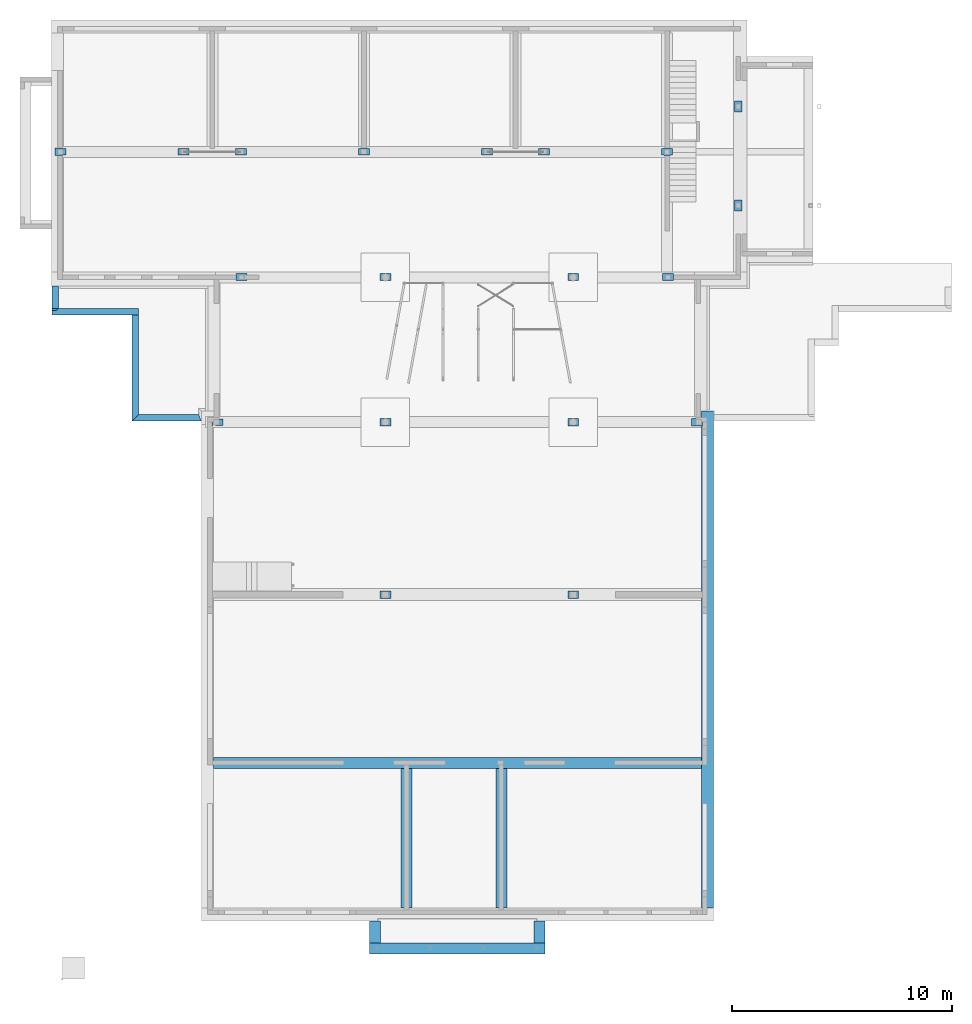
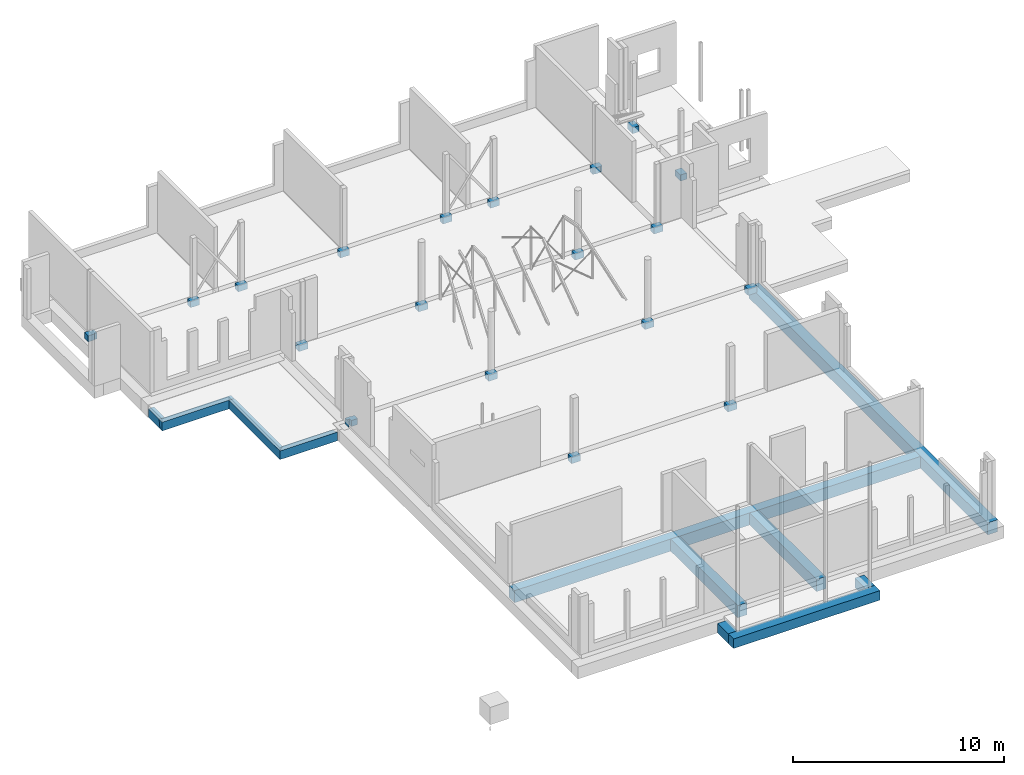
# One storey, part 9 of 17: 19 columns, 11 beams.
"""IFC2X3 building model written with IfcOpenShell, lengths in millimetres."""

from ifc_helpers import new_model, entity, si_unit, converted_unit, derived_unit, direction, frame, frame_2d, origin, place, context, subcontext, project, spatial, polyline, rectangle, outline, extrude, clip, halfspace, source, transform, mapped, material, type_object, type_shapes, element, save


model = new_model("IFC2X3")

# Units and contexts
model_context = context("Model", 3, precision=0.01, world=origin(), true_north=direction((6.123031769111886e-17, 1.0)))
body_context = subcontext(model_context, "Body", "Model", "MODEL_VIEW")
ifc_project = project(units=[si_unit("LENGTHUNIT", "METRE", prefix="MILLI"), si_unit("AREAUNIT", "SQUARE_METRE", prefix="MILLI"), si_unit("VOLUMEUNIT", "CUBIC_METRE"), converted_unit("PLANEANGLEUNIT", "DEGREE", entity("IfcPlaneAngleMeasure", 0.017453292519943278), si_unit("PLANEANGLEUNIT", "RADIAN"), dimensions=[0, 0, 0, 0, 0, 0, 0]), si_unit("MASSUNIT", "GRAM", prefix="KILO"), derived_unit("MASSDENSITYUNIT", [(si_unit("MASSUNIT", "GRAM", prefix="KILO"), 1), (si_unit("LENGTHUNIT", "METRE"), -3)]), derived_unit("IONCONCENTRATIONUNIT", [(si_unit("MASSUNIT", "GRAM", prefix="KILO"), 1), (si_unit("LENGTHUNIT", "METRE"), -3)]), derived_unit("MOMENTOFINERTIAUNIT", [(si_unit("LENGTHUNIT", "METRE"), 4)]), si_unit("TIMEUNIT", "SECOND"), si_unit("FREQUENCYUNIT", "HERTZ"), si_unit("THERMODYNAMICTEMPERATUREUNIT", "DEGREE_CELSIUS"), derived_unit("THERMALTRANSMITTANCEUNIT", [(si_unit("MASSUNIT", "GRAM", prefix="KILO"), 1), (si_unit("THERMODYNAMICTEMPERATUREUNIT", "KELVIN"), -1), (si_unit("TIMEUNIT", "SECOND"), -3)]), derived_unit("THERMALCONDUCTANCEUNIT", [(si_unit("MASSUNIT", "GRAM", prefix="KILO"), 1), (si_unit("THERMODYNAMICTEMPERATUREUNIT", "KELVIN"), -1), (si_unit("TIMEUNIT", "SECOND"), -3), (si_unit("LENGTHUNIT", "METRE"), 1)]), derived_unit("VOLUMETRICFLOWRATEUNIT", [(si_unit("LENGTHUNIT", "METRE", prefix="DECI"), 3), (si_unit("TIMEUNIT", "SECOND"), -1)]), derived_unit("MASSFLOWRATEUNIT", [(si_unit("MASSUNIT", "GRAM", prefix="KILO"), 1), (si_unit("TIMEUNIT", "SECOND"), -1)]), derived_unit("ROTATIONALFREQUENCYUNIT", [(si_unit("TIMEUNIT", "SECOND"), -1)]), si_unit("ELECTRICCURRENTUNIT", "AMPERE"), si_unit("ELECTRICVOLTAGEUNIT", "VOLT"), si_unit("POWERUNIT", "WATT"), si_unit("FORCEUNIT", "NEWTON", prefix="KILO"), si_unit("ILLUMINANCEUNIT", "LUX"), si_unit("LUMINOUSFLUXUNIT", "LUMEN"), si_unit("LUMINOUSINTENSITYUNIT", "CANDELA"), si_unit("ENERGYUNIT", "JOULE"), derived_unit("USERDEFINED", [(si_unit("MASSUNIT", "GRAM", prefix="KILO"), -1), (si_unit("LENGTHUNIT", "METRE"), -2), (si_unit("TIMEUNIT", "SECOND"), 3), (si_unit("LUMINOUSFLUXUNIT", "LUMEN"), 1)]), derived_unit("USERDEFINED", [(si_unit("MASSUNIT", "GRAM", prefix="KILO"), 1), (si_unit("TIMEUNIT", "SECOND"), -3), (si_unit("LENGTHUNIT", "METRE"), 3), (si_unit("ELECTRICCURRENTUNIT", "AMPERE"), -2)]), derived_unit("SOUNDPOWERUNIT", [(si_unit("MASSUNIT", "GRAM", prefix="KILO"), 1), (si_unit("TIMEUNIT", "SECOND"), -3), (si_unit("LENGTHUNIT", "METRE"), 2)]), derived_unit("SOUNDPRESSUREUNIT", [(si_unit("MASSUNIT", "GRAM", prefix="KILO"), 1), (si_unit("LENGTHUNIT", "METRE"), -1), (si_unit("TIMEUNIT", "SECOND"), -2)]), derived_unit("LINEARVELOCITYUNIT", [(si_unit("LENGTHUNIT", "METRE"), 1), (si_unit("TIMEUNIT", "SECOND"), -1)]), si_unit("PRESSUREUNIT", "PASCAL"), derived_unit("USERDEFINED", [(si_unit("MASSUNIT", "GRAM", prefix="KILO"), 1), (si_unit("LENGTHUNIT", "METRE"), -2), (si_unit("TIMEUNIT", "SECOND"), -2)]), derived_unit("LINEARFORCEUNIT", [(si_unit("MASSUNIT", "GRAM", prefix="KILO"), 1), (si_unit("TIMEUNIT", "SECOND"), -2)]), derived_unit("PLANARFORCEUNIT", [(si_unit("MASSUNIT", "GRAM", prefix="KILO"), 1), (si_unit("LENGTHUNIT", "METRE"), -1), (si_unit("TIMEUNIT", "SECOND"), -2)]), derived_unit("SPECIFICHEATCAPACITYUNIT", [(si_unit("THERMODYNAMICTEMPERATUREUNIT", "KELVIN"), -1), (si_unit("LENGTHUNIT", "METRE"), 2), (si_unit("TIMEUNIT", "SECOND"), -2)]), derived_unit("HEATFLUXDENSITYUNIT", [(si_unit("MASSUNIT", "GRAM", prefix="KILO"), 1), (si_unit("TIMEUNIT", "SECOND"), -3)]), derived_unit("HEATINGVALUEUNIT", [(si_unit("LENGTHUNIT", "METRE"), 2), (si_unit("TIMEUNIT", "SECOND"), -2)]), derived_unit("VAPORPERMEABILITYUNIT", [(si_unit("LENGTHUNIT", "METRE"), -1), (si_unit("TIMEUNIT", "SECOND"), 1)]), derived_unit("DYNAMICVISCOSITYUNIT", [(si_unit("MASSUNIT", "GRAM", prefix="KILO"), 1), (si_unit("TIMEUNIT", "SECOND"), -1), (si_unit("LENGTHUNIT", "METRE"), -1)]), derived_unit("THERMALEXPANSIONCOEFFICIENTUNIT", [(si_unit("THERMODYNAMICTEMPERATUREUNIT", "KELVIN"), -1)]), derived_unit("MODULUSOFELASTICITYUNIT", [(si_unit("MASSUNIT", "GRAM", prefix="KILO"), 1), (si_unit("LENGTHUNIT", "METRE"), -1), (si_unit("TIMEUNIT", "SECOND"), -2)]), derived_unit("ISOTHERMALMOISTURECAPACITYUNIT", [(si_unit("MASSUNIT", "GRAM", prefix="KILO"), -1), (si_unit("LENGTHUNIT", "METRE"), 3)]), derived_unit("MOISTUREDIFFUSIVITYUNIT", [(si_unit("TIMEUNIT", "SECOND"), -1), (si_unit("LENGTHUNIT", "METRE"), 2)]), derived_unit("MASSPERLENGTHUNIT", [(si_unit("MASSUNIT", "GRAM", prefix="KILO"), 1), (si_unit("LENGTHUNIT", "METRE"), -1)]), derived_unit("THERMALRESISTANCEUNIT", [(si_unit("MASSUNIT", "GRAM", prefix="KILO"), -1), (si_unit("TIMEUNIT", "SECOND"), 3), (si_unit("THERMODYNAMICTEMPERATUREUNIT", "KELVIN"), 1)]), derived_unit("ACCELERATIONUNIT", [(si_unit("LENGTHUNIT", "METRE"), 1), (si_unit("TIMEUNIT", "SECOND"), -2)]), derived_unit("ANGULARVELOCITYUNIT", [(si_unit("TIMEUNIT", "SECOND"), -1), (si_unit("PLANEANGLEUNIT", "RADIAN"), 1)]), derived_unit("LINEARSTIFFNESSUNIT", [(si_unit("MASSUNIT", "GRAM", prefix="KILO"), 1), (si_unit("TIMEUNIT", "SECOND"), -2)]), derived_unit("WARPINGCONSTANTUNIT", [(si_unit("LENGTHUNIT", "METRE"), 6)]), derived_unit("LINEARMOMENTUNIT", [(si_unit("MASSUNIT", "GRAM", prefix="KILO"), 1), (si_unit("LENGTHUNIT", "METRE"), 1), (si_unit("TIMEUNIT", "SECOND"), -2)]), derived_unit("TORQUEUNIT", [(si_unit("MASSUNIT", "GRAM", prefix="KILO"), 1), (si_unit("LENGTHUNIT", "METRE"), 2), (si_unit("TIMEUNIT", "SECOND"), -2)])], contexts=[model_context])

# Site, building, storey
site_placement = place(None, origin())
site = spatial("IfcSite", under=ifc_project, at=site_placement, Name="Default", CompositionType="ELEMENT")
building_placement = place(site_placement, origin())
building = spatial("IfcBuilding", under=site, at=building_placement, CompositionType="ELEMENT")
storey_placement = place(building_placement, frame((0.0, 0.0, -70.0)))
storey = spatial("IfcBuildingStorey", under=building, at=storey_placement, Name="F1 begg (bk ruwe vloer)", CompositionType="ELEMENT", Elevation=-69.99999999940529)

# Columns
ifc_material_1 = material(Name="Concrete - Cast-in-Place - C20/25")
column_type_1 = type_object("IfcColumnType", Name="btk_beton - 4-hoek:500x350 ihwg", PredefinedType="COLUMN", material=ifc_material_1)
shared_shape_1 = source(origin(), body_context, "Body", "SweptSolid", [
    extrude(rectangle(XDim=300.0000000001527, YDim=500.00000000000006, at=frame_2d((2.1742607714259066e-12, -5.400124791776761e-13), x_axis=(1.0, 0.0))), frame((5525.000781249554, 37644.57320506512, -480.0), z_axis=(0.0, 0.0, 1.0), x_axis=(0.0, -1.0, 0.0)), (0.0, 0.0, 1.0), 349.9999999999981),
])
type_shapes(column_type_1, [shared_shape_1])
column_1_placement = place(storey_placement, frame((0.0, 0.0, 70.0)))
element("IfcColumn", 1, at=column_1_placement, inside=storey, type_object=column_type_1, material=ifc_material_1, Name="btk_beton - 4-hoek:500x350 ihwg", ObjectType="btk_beton - 4-hoek:500x350 ihwg", context=body_context, shape_type="MappedRepresentation", body=[
    mapped(shared_shape_1, transform((0.0, 0.0, 0.0), scale=1.0)),
])
column_type_2 = type_object("IfcColumnType", Name="btk_beton - 4-hoek:500x350 ihwg", PredefinedType="COLUMN", material=ifc_material_1)
shared_shape_2 = source(origin(), body_context, "Body", "SweptSolid", [
    extrude(rectangle(XDim=300.0000000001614, YDim=500.00000000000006, at=frame_2d((2.1600499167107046e-12, -5.400124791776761e-13), x_axis=(1.0, 0.0))), frame((8124.985770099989, 37644.57320506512, -480.0), z_axis=(0.0, 0.0, 1.0), x_axis=(0.0, 1.0, 0.0)), (0.0, 0.0, 1.0), 349.9999999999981),
])
type_shapes(column_type_2, [shared_shape_2])
column_2_placement = place(storey_placement, frame((0.0, 0.0, 70.0)))
element("IfcColumn", 2, at=column_2_placement, inside=storey, type_object=column_type_2, material=ifc_material_1, Name="btk_beton - 4-hoek:500x350 ihwg", ObjectType="btk_beton - 4-hoek:500x350 ihwg", context=body_context, shape_type="MappedRepresentation", body=[
    mapped(shared_shape_2, transform((0.0, 0.0, 0.0), scale=1.0)),
])
column_type_3 = type_object("IfcColumnType", Name="btk_beton - 4-hoek:500x350 ihwg", PredefinedType="COLUMN", material=ifc_material_1)
shared_shape_3 = source(origin(), body_context, "Body", "SweptSolid", [
    extrude(outline(polyline([(-231.25000000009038, -250.0), (68.75000000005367, -250.0), (68.75000000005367, -150.0), (93.74999999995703, -150.0), (93.74999999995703, 150.0), (68.75000000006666, 150.0), (68.750000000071, 250.0), (-231.25000000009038, 250.0), (-231.25000000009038, -250.0)])), frame((13725.00078124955, 37725.823205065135, -480.0), z_axis=(0.0, 0.0, 1.0), x_axis=(0.0, 1.0, 0.0)), (0.0, 0.0, 1.0), 349.9999999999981),
])
type_shapes(column_type_3, [shared_shape_3])
column_3_placement = place(storey_placement, frame((0.0, 0.0, 70.0)))
element("IfcColumn", 3, at=column_3_placement, inside=storey, type_object=column_type_3, material=ifc_material_1, Name="btk_beton - 4-hoek:500x350 ihwg", ObjectType="btk_beton - 4-hoek:500x350 ihwg", context=body_context, shape_type="MappedRepresentation", body=[
    mapped(shared_shape_3, transform((0.0, 0.0, 0.0), scale=1.0)),
])
column_type_4 = type_object("IfcColumnType", Name="btk_beton - 4-hoek:500x350 ihwg", PredefinedType="COLUMN", material=ifc_material_1)
shared_shape_4 = source(origin(), body_context, "Body", "SweptSolid", [
    extrude(rectangle(XDim=300.00000000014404, YDim=500.00000000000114, at=frame_2d((2.1600499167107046e-12, 1.0800249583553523e-12), x_axis=(1.0, 0.0))), frame((19324.98465402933, 37644.57320506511, -480.0), z_axis=(0.0, 0.0, 1.0), x_axis=(0.0, 1.0, 0.0)), (0.0, 0.0, 1.0), 349.9999999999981),
])
type_shapes(column_type_4, [shared_shape_4])
column_4_placement = place(storey_placement, frame((0.0, 0.0, 70.0)))
element("IfcColumn", 4, at=column_4_placement, inside=storey, type_object=column_type_4, material=ifc_material_1, Name="btk_beton - 4-hoek:500x350 ihwg", ObjectType="btk_beton - 4-hoek:500x350 ihwg", context=body_context, shape_type="MappedRepresentation", body=[
    mapped(shared_shape_4, transform((0.0, 0.0, 0.0), scale=1.0)),
])
column_type_5 = type_object("IfcColumnType", Name="btk_beton - 4-hoek:500x350 ihwg", PredefinedType="COLUMN", material=ifc_material_1)
shared_shape_5 = source(origin(), body_context, "Body", "SweptSolid", [
    extrude(rectangle(XDim=300.0000000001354, YDim=499.999999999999, at=frame_2d((-2.1742607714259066e-12, 0.0), x_axis=(1.0, 0.0))), frame((21924.984654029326, 37644.57320506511, -480.0), z_axis=(0.0, 0.0, 1.0), x_axis=(0.0, 1.0, 0.0)), (0.0, 0.0, 1.0), 349.9999999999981),
])
type_shapes(column_type_5, [shared_shape_5])
column_5_placement = place(storey_placement, frame((0.0, 0.0, 70.0)))
element("IfcColumn", 5, at=column_5_placement, inside=storey, type_object=column_type_5, material=ifc_material_1, Name="btk_beton - 4-hoek:500x350 ihwg", ObjectType="btk_beton - 4-hoek:500x350 ihwg", context=body_context, shape_type="MappedRepresentation", body=[
    mapped(shared_shape_5, transform((0.0, 0.0, 0.0), scale=1.0)),
])
column_type_6 = type_object("IfcColumnType", Name="btk_beton - 4-hoek:500x350 ihwg", PredefinedType="COLUMN", material=ifc_material_1)
shared_shape_6 = source(origin(), body_context, "Body", "SweptSolid", [
    extrude(outline(polyline([(150.0, -150.00085565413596), (175.0, -150.00085565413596), (175.0, 149.99914434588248), (150.0, 149.99914434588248), (150.0, 249.99914434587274), (-150.0, 249.99914434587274), (-150.0, 149.9991443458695), (-175.0, 149.9991443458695), (-175.0, -149.9957217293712), (-150.0, -149.9957217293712), (-150.0, -250.0008556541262), (150.0, -250.0008556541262), (150.0, -150.00085565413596)])), frame((27524.9803757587, 37644.573205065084, -480.0), z_axis=(0.0, 0.0, 1.0), x_axis=(0.0, -1.0, 0.0)), (0.0, 0.0, 1.0), 349.9999999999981),
])
type_shapes(column_type_6, [shared_shape_6])
column_6_placement = place(storey_placement, frame((0.0, 0.0, 70.0)))
element("IfcColumn", 6, at=column_6_placement, inside=storey, type_object=column_type_6, material=ifc_material_1, Name="btk_beton - 4-hoek:500x350 ihwg", ObjectType="btk_beton - 4-hoek:500x350 ihwg", context=body_context, shape_type="MappedRepresentation", body=[
    mapped(shared_shape_6, transform((0.0, 0.0, 0.0), scale=1.0)),
])
column_type_7 = type_object("IfcColumnType", Name="btk_beton - 4-hoek:500x350 ihwg", PredefinedType="COLUMN", material=ifc_material_1)
shared_shape_7 = source(origin(), body_context, "Body", "SweptSolid", [
    extrude(rectangle(XDim=324.9999999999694, YDim=499.999999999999, at=frame_2d((74.9999999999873, 9.476583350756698), x_axis=(1.0, 0.0))), frame((27553.40927015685, 32025.073165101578, -480.0), z_axis=(0.0, 0.0, 1.0), x_axis=(0.0, -1.0, 0.0)), (0.0, 0.0, 1.0), 349.9999999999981),
])
type_shapes(column_type_7, [shared_shape_7])
column_7_placement = place(storey_placement, frame((0.0, 0.0, 70.0)))
element("IfcColumn", 7, at=column_7_placement, inside=storey, type_object=column_type_7, material=ifc_material_1, Name="btk_beton - 4-hoek:500x350 ihwg", ObjectType="btk_beton - 4-hoek:500x350 ihwg", context=body_context, shape_type="MappedRepresentation", body=[
    mapped(shared_shape_7, transform((0.0, 0.0, 0.0), scale=1.0)),
])
column_type_8 = type_object("IfcColumnType", Name="btk_beton - 4-hoek:500x350 ihwg", PredefinedType="COLUMN", material=ifc_material_1)
shared_shape_8 = source(origin(), body_context, "Body", "SweptSolid", [
    extrude(rectangle(XDim=324.99999999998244, YDim=499.999999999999, at=frame_2d((45.83333333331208, 4.334310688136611e-12), x_axis=(1.0, 0.0))), frame((23249.98660715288, 31995.90649843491, -480.0), z_axis=(0.0, 0.0, 1.0), x_axis=(0.0, -1.0, 0.0)), (0.0, 0.0, 1.0), 349.9999999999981),
])
type_shapes(column_type_8, [shared_shape_8])
column_8_placement = place(storey_placement, frame((0.0, 0.0, 70.0)))
element("IfcColumn", 8, at=column_8_placement, inside=storey, type_object=column_type_8, material=ifc_material_1, Name="btk_beton - 4-hoek:500x350 ihwg", ObjectType="btk_beton - 4-hoek:500x350 ihwg", context=body_context, shape_type="MappedRepresentation", body=[
    mapped(shared_shape_8, transform((0.0, 0.0, 0.0), scale=1.0)),
])
column_type_9 = type_object("IfcColumnType", Name="btk_beton - 4-hoek:500x350 ihwg", PredefinedType="COLUMN", material=ifc_material_1)
shared_shape_9 = source(origin(), body_context, "Body", "SweptSolid", [
    extrude(rectangle(XDim=325.0000000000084, YDim=499.999999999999, at=frame_2d((45.83333333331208, 2.1742607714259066e-12), x_axis=(1.0, 0.0))), frame((14699.863108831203, 31995.90649843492, -480.0), z_axis=(0.0, 0.0, 1.0), x_axis=(0.0, -1.0, 0.0)), (0.0, 0.0, 1.0), 349.9999999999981),
])
type_shapes(column_type_9, [shared_shape_9])
column_9_placement = place(storey_placement, frame((0.0, 0.0, 70.0)))
element("IfcColumn", 9, at=column_9_placement, inside=storey, type_object=column_type_9, material=ifc_material_1, Name="btk_beton - 4-hoek:500x350 ihwg", ObjectType="btk_beton - 4-hoek:500x350 ihwg", context=body_context, shape_type="MappedRepresentation", body=[
    mapped(shared_shape_9, transform((0.0, 0.0, 0.0), scale=1.0)),
])
column_type_10 = type_object("IfcColumnType", Name="btk_beton - 4-hoek:500x350 ihwg", PredefinedType="COLUMN", material=ifc_material_1)
shared_shape_10 = source(origin(), body_context, "Body", "SweptSolid", [
    extrude(rectangle(XDim=325.00000000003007, YDim=500.00000000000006, at=frame_2d((45.83333333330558, -5.400124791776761e-13), x_axis=(1.0, 0.0))), frame((8150.556323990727, 31995.906498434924, -480.0), z_axis=(0.0, 0.0, 1.0), x_axis=(0.0, -1.0, 0.0)), (0.0, 0.0, 1.0), 349.9999999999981),
])
type_shapes(column_type_10, [shared_shape_10])
column_10_placement = place(storey_placement, frame((0.0, 0.0, 70.0)))
element("IfcColumn", 10, at=column_10_placement, inside=storey, type_object=column_type_10, material=ifc_material_1, Name="btk_beton - 4-hoek:500x350 ihwg", ObjectType="btk_beton - 4-hoek:500x350 ihwg", context=body_context, shape_type="MappedRepresentation", body=[
    mapped(shared_shape_10, transform((0.0, 0.0, 0.0), scale=1.0)),
])
column_type_11 = type_object("IfcColumnType", Name="btk_beton - 4-hoek:500x350 ihwg", PredefinedType="COLUMN", material=ifc_material_1)
shared_shape_11 = source(origin(), body_context, "Body", "SweptSolid", [
    extrude(outline(polyline([(-294.5001936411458, -175.0), (44.50019364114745, -175.0), (44.50019364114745, -150.0), (205.49980635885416, -150.0), (205.49980635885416, 150.0), (44.50019364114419, 150.0), (44.50019364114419, 175.0), (-294.5001936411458, 175.0), (-294.5001936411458, -175.0)])), frame((-44.4998063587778, 37644.57320506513, -480.0)), (0.0, 0.0, 1.0), 349.9999999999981),
])
type_shapes(column_type_11, [shared_shape_11])
column_11_placement = place(storey_placement, frame((0.0, 0.0, 70.0)))
element("IfcColumn", 11, at=column_11_placement, inside=storey, type_object=column_type_11, material=ifc_material_1, Name="btk_beton - 4-hoek:500x350 ihwg", ObjectType="btk_beton - 4-hoek:500x350 ihwg", context=body_context, shape_type="MappedRepresentation", body=[
    mapped(shared_shape_11, transform((0.0, 0.0, 0.0), scale=1.0)),
])
column_type_12 = type_object("IfcColumnType", Name="btk_beton - 4-hoek:500x350 ihwg", PredefinedType="COLUMN", material=ifc_material_1)
shared_shape_12 = source(origin(), body_context, "Body", "SweptSolid", [
    extrude(outline(polyline([(-195.5936851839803, -174.99451218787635), (-181.6252592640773, -174.99451218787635), (-181.62525926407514, -0.021951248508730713), (-45.593685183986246, -0.021951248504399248), (-45.593685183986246, -149.9945121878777), (304.40631481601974, -149.99451218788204), (304.40631481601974, 150.0054878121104), (118.40631481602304, 150.0054878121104), (118.40631481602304, 175.00548781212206), (-195.5936851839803, 175.00548781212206), (-195.5936851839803, -174.99451218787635)])), frame((7006.6180445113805, 25344.599525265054, -480.0)), (0.0, 0.0, 1.0), 349.9999999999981),
])
type_shapes(column_type_12, [shared_shape_12])
column_12_placement = place(storey_placement, frame((0.0, 0.0, 70.0)))
element("IfcColumn", 12, at=column_12_placement, inside=storey, type_object=column_type_12, material=ifc_material_1, Name="btk_beton - 4-hoek:500x350 ihwg", ObjectType="btk_beton - 4-hoek:500x350 ihwg", context=body_context, shape_type="MappedRepresentation", body=[
    mapped(shared_shape_12, transform((0.0, 0.0, 0.0), scale=1.0)),
])
column_type_13 = type_object("IfcColumnType", Name="btk_beton - 4-hoek:500x350 ihwg", PredefinedType="COLUMN", material=ifc_material_1)
shared_shape_13 = source(origin(), body_context, "Body", "SweptSolid", [
    extrude(rectangle(XDim=349.9999999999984, YDim=499.999999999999, at=frame_2d((1.7323031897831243e-11, 0.0), x_axis=(1.0, 0.0))), frame((14699.863108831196, 25344.60501307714, -480.0), z_axis=(0.0, 0.0, 1.0), x_axis=(0.0, 1.0, 0.0)), (0.0, 0.0, 1.0), 349.9999999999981),
])
type_shapes(column_type_13, [shared_shape_13])
column_13_placement = place(storey_placement, frame((0.0, 0.0, 70.0)))
element("IfcColumn", 13, at=column_13_placement, inside=storey, type_object=column_type_13, material=ifc_material_1, Name="btk_beton - 4-hoek:500x350 ihwg", ObjectType="btk_beton - 4-hoek:500x350 ihwg", context=body_context, shape_type="MappedRepresentation", body=[
    mapped(shared_shape_13, transform((0.0, 0.0, 0.0), scale=1.0)),
])
column_type_14 = type_object("IfcColumnType", Name="btk_beton - 4-hoek:500x350 ihwg", PredefinedType="COLUMN", material=ifc_material_1)
shared_shape_14 = source(origin(), body_context, "Body", "SweptSolid", [
    extrude(rectangle(XDim=499.999999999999, YDim=350.00000000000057, at=frame_2d((0.0, -1.0800249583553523e-12), x_axis=(1.0, 0.0))), frame((14699.863108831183, 17494.60501307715, -480.0), z_axis=(0.0, 0.0, 1.0), x_axis=(-1.0, 0.0, 0.0)), (0.0, 0.0, 1.0), 349.9999999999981),
])
type_shapes(column_type_14, [shared_shape_14])
column_14_placement = place(storey_placement, frame((0.0, 0.0, 70.0)))
element("IfcColumn", 14, at=column_14_placement, inside=storey, type_object=column_type_14, material=ifc_material_1, Name="btk_beton - 4-hoek:500x350 ihwg", ObjectType="btk_beton - 4-hoek:500x350 ihwg", context=body_context, shape_type="MappedRepresentation", body=[
    mapped(shared_shape_14, transform((0.0, 0.0, 0.0), scale=1.0)),
])
column_type_15 = type_object("IfcColumnType", Name="btk_beton - 4-hoek:500x350 ihwg", PredefinedType="COLUMN", material=ifc_material_1)
shared_shape_15 = source(origin(), body_context, "Body", "SweptSolid", [
    extrude(rectangle(XDim=499.999999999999, YDim=350.00000000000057, at=frame_2d((0.0, 1.0800249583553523e-12), x_axis=(1.0, 0.0))), frame((23249.986607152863, 17494.605013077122, -480.0), z_axis=(0.0, 0.0, 1.0), x_axis=(-1.0, 0.0, 0.0)), (0.0, 0.0, 1.0), 349.9999999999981),
])
type_shapes(column_type_15, [shared_shape_15])
column_15_placement = place(storey_placement, frame((0.0, 0.0, 70.0)))
element("IfcColumn", 15, at=column_15_placement, inside=storey, type_object=column_type_15, material=ifc_material_1, Name="btk_beton - 4-hoek:500x350 ihwg", ObjectType="btk_beton - 4-hoek:500x350 ihwg", context=body_context, shape_type="MappedRepresentation", body=[
    mapped(shared_shape_15, transform((0.0, 0.0, 0.0), scale=1.0)),
])
column_type_16 = type_object("IfcColumnType", Name="btk_beton - 4-hoek:500x350 ihwg", PredefinedType="COLUMN", material=ifc_material_1)
shared_shape_16 = source(origin(), body_context, "Body", "SweptSolid", [
    extrude(rectangle(XDim=350.00000000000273, YDim=499.999999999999, at=frame_2d((-35.668095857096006, -4.334310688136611e-12), x_axis=(1.0, 0.0))), frame((30721.30909910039, 35197.84751726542, -480.0), z_axis=(0.0, 0.0, 1.0), x_axis=(-1.0, 0.0, 0.0)), (0.0, 0.0, 1.0), 349.9999999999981),
])
type_shapes(column_type_16, [shared_shape_16])
column_16_placement = place(storey_placement, frame((0.0, 0.0, 70.0)))
element("IfcColumn", 16, at=column_16_placement, inside=storey, type_object=column_type_16, material=ifc_material_1, Name="btk_beton - 4-hoek:500x350 ihwg", ObjectType="btk_beton - 4-hoek:500x350 ihwg", context=body_context, shape_type="MappedRepresentation", body=[
    mapped(shared_shape_16, transform((0.0, 0.0, 0.0), scale=1.0)),
])
column_type_17 = type_object("IfcColumnType", Name="btk_beton - 4-hoek:500x350 ihwg", PredefinedType="COLUMN", material=ifc_material_1)
shared_shape_17 = source(origin(), body_context, "Body", "SweptSolid", [
    extrude(rectangle(XDim=350.00000000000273, YDim=499.999999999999, at=frame_2d((-35.93803669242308, -4.334310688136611e-12), x_axis=(1.0, 0.0))), frame((30721.03915826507, 39708.506962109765, -480.0), z_axis=(0.0, 0.0, 1.0), x_axis=(-1.0, 0.0, 0.0)), (0.0, 0.0, 1.0), 349.9999999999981),
])
type_shapes(column_type_17, [shared_shape_17])
column_17_placement = place(storey_placement, frame((0.0, 0.0, 70.0)))
element("IfcColumn", 17, at=column_17_placement, inside=storey, type_object=column_type_17, material=ifc_material_1, Name="btk_beton - 4-hoek:500x350 ihwg", ObjectType="btk_beton - 4-hoek:500x350 ihwg", context=body_context, shape_type="MappedRepresentation", body=[
    mapped(shared_shape_17, transform((0.0, 0.0, 0.0), scale=1.0)),
])
column_type_18 = type_object("IfcColumnType", Name="btk_beton - 4-hoek:500x350 ihwg", PredefinedType="COLUMN", material=ifc_material_1)
shared_shape_18 = source(origin(), body_context, "Body", "SweptSolid", [
    extrude(rectangle(XDim=349.9999999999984, YDim=499.999999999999, at=frame_2d((3.0325963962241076e-11, 4.334310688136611e-12), x_axis=(1.0, 0.0))), frame((23249.98660715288, 25344.6050130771, -480.0), z_axis=(0.0, 0.0, 1.0), x_axis=(0.0, 1.0, 0.0)), (0.0, 0.0, 1.0), 349.9999999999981),
])
type_shapes(column_type_18, [shared_shape_18])
column_18_placement = place(storey_placement, frame((0.0, 0.0, 70.0)))
element("IfcColumn", 18, at=column_18_placement, inside=storey, type_object=column_type_18, material=ifc_material_1, Name="btk_beton - 4-hoek:500x350 ihwg", ObjectType="btk_beton - 4-hoek:500x350 ihwg", context=body_context, shape_type="MappedRepresentation", body=[
    mapped(shared_shape_18, transform((0.0, 0.0, 0.0), scale=1.0)),
])
column_type_19 = type_object("IfcColumnType", Name="btk_beton - 4-hoek:500x350 ihwg", PredefinedType="COLUMN", material=ifc_material_1)
shared_shape_19 = source(origin(), body_context, "Body", "SweptSolid", [
    extrude(rectangle(XDim=499.999999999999, YDim=349.9999999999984, at=frame_2d((-40.99885370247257, -2.1657342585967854e-11), x_axis=(1.0, 0.0))), frame((28847.980675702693, 25344.605013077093, -480.0), z_axis=(0.0, 0.0, 1.0), x_axis=(-1.0, 0.0, 0.0)), (0.0, 0.0, 1.0), 349.9999999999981),
])
type_shapes(column_type_19, [shared_shape_19])
column_19_placement = place(storey_placement, frame((0.0, 0.0, 70.0)))
element("IfcColumn", 19, at=column_19_placement, inside=storey, type_object=column_type_19, material=ifc_material_1, Name="btk_beton - 4-hoek:500x350 ihwg", ObjectType="btk_beton - 4-hoek:500x350 ihwg", context=body_context, shape_type="MappedRepresentation", body=[
    mapped(shared_shape_19, transform((0.0, 0.0, 0.0), scale=1.0)),
])

# Beams
ifc_material_2 = material(Name="Concrete - Cast-in-Place - C30/37")
beam_type_1 = type_object("IfcBeamType", Name="btl_ihwg - RBeam:550x700", PredefinedType="NOTDEFINED")
beam_1_placement = place(storey_placement, frame((29624.985770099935, 2644.605013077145, -410.0), z_axis=(0.0, 0.0, 1.0), x_axis=(0.0, 1.0, 0.0)))
element("IfcBeam", 20, at=beam_1_placement, inside=storey, type_object=beam_type_1, material=ifc_material_2, Name="btl_ihwg - RBeam:550x700", ObjectType="btl_ihwg - RBeam:550x700", context=body_context, shape_type="SweptSolid", body=[
    extrude(rectangle(XDim=699.9999999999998, YDim=550.0000000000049, at=frame_2d((-2.842170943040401e-14, -4.320099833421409e-12), x_axis=(1.0, 0.0))), frame((600.0, 275.0, -350.0), z_axis=(1.0, 0.0, 0.0), x_axis=(0.0, 0.0, -1.0)), (0.0, 0.0, 1.0), 22600.0),
])
ifc_material_3 = material(Name="Beton, ihwg C30/37")
beam_type_2 = type_object("IfcBeamType", Name="btl_ihwg - RBeam:500x700", PredefinedType="BEAM", material=ifc_material_3)
beam_2_placement = place(storey_placement, frame((6784.985770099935, 9844.605013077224, -410.0)))
element("IfcBeam", 21, at=beam_2_placement, inside=storey, type_object=beam_type_2, material=ifc_material_3, Name="btl_ihwg - RBeam:500x700", ObjectType="btl_ihwg - RBeam:500x700", context=body_context, shape_type="SweptSolid", body=[
    extrude(rectangle(XDim=700.0, YDim=500.0000000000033, at=frame_2d((2.842170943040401e-14, 7.146638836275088e-11), x_axis=(1.0, 0.0))), frame((90.01562712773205, 0.0, -350.0), z_axis=(1.0, 0.0, 0.0), x_axis=(0.0, 0.0, -1.0)), (0.0, 0.0, 1.0), 22199.984372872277),
])
beam_3_placement = place(storey_placement, frame((15664.841685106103, 9844.605013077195, -410.0), z_axis=(0.0, 0.0, 1.0), x_axis=(0.0, -1.0, 0.0)))
element("IfcBeam", 22, at=beam_3_placement, inside=storey, type_object=beam_type_2, material=ifc_material_3, Name="btl_ihwg - RBeam:500x700", ObjectType="btl_ihwg - RBeam:500x700", context=body_context, shape_type="SweptSolid", body=[
    extrude(rectangle(XDim=700.0000000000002, YDim=500.0000000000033, at=frame_2d((2.842170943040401e-14, 0.0), x_axis=(1.0, 0.0))), frame((250.0, 0.0, -350.0), z_axis=(1.0, 0.0, 0.0), x_axis=(0.0, 0.0, -1.0)), (0.0, 0.0, 1.0), 6350.000000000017),
])
beam_4_placement = place(storey_placement, frame((19978.355754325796, 9844.60501307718, -410.0), z_axis=(0.0, 0.0, 1.0), x_axis=(0.0, -1.0, 0.0)))
element("IfcBeam", 23, at=beam_4_placement, inside=storey, type_object=beam_type_2, material=ifc_material_3, Name="btl_ihwg - RBeam:500x700", ObjectType="btl_ihwg - RBeam:500x700", context=body_context, shape_type="SweptSolid", body=[
    extrude(rectangle(XDim=700.0000000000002, YDim=500.0000000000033, at=frame_2d((2.842170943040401e-14, -2.1600499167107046e-12), x_axis=(1.0, 0.0))), frame((250.0, 0.0, -350.0), z_axis=(1.0, 0.0, 0.0), x_axis=(0.0, 0.0, -1.0)), (0.0, 0.0, 1.0), 6350.00000000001),
])
beam_type_3 = type_object("IfcBeamType", Name="btl_ihwg - RBeam:500x550", PredefinedType="NOTDEFINED")
beam_5_placement = place(storey_placement, frame((14224.863108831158, 2644.6050130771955, -560.0), z_axis=(0.0, 0.0, 1.0), x_axis=(0.0, -1.0, 0.0)))
element("IfcBeam", 24, at=beam_5_placement, inside=storey, type_object=beam_type_3, material=ifc_material_3, Name="btl_ihwg - RBeam:500x550", ObjectType="btl_ihwg - RBeam:500x550", context=body_context, shape_type="SweptSolid", body=[
    extrude(rectangle(XDim=549.9999999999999, YDim=500.0000000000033, at=frame_2d((5.684341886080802e-14, 0.0), x_axis=(1.0, 0.0))), frame((0.0, 0.0, -275.0), z_axis=(1.0, 0.0, 0.0), x_axis=(0.0, 0.0, -1.0)), (0.0, 0.0, 1.0), 1000.0000000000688),
])
beam_6_placement = place(storey_placement, frame((13974.994921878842, 1394.605013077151, -560.0)))
element("IfcBeam", 25, at=beam_6_placement, inside=storey, type_object=beam_type_3, material=ifc_material_3, Name="btl_ihwg - RBeam:500x550", ObjectType="btl_ihwg - RBeam:500x550", context=body_context, shape_type="SweptSolid", body=[
    extrude(rectangle(XDim=550.0, YDim=500.0000000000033, at=frame_2d((5.684341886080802e-14, 2.5991653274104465e-11), x_axis=(1.0, 0.0))), frame((0.0, 0.0, -275.0), z_axis=(1.0, 0.0, 0.0), x_axis=(0.0, 0.0, -1.0)), (0.0, 0.0, 1.0), 7994.868186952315),
])
beam_7_placement = place(storey_placement, frame((21719.86310883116, 2644.605013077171, -560.0), z_axis=(0.0, 0.0, 1.0), x_axis=(0.0, -1.0, 0.0)))
element("IfcBeam", 26, at=beam_7_placement, inside=storey, type_object=beam_type_3, material=ifc_material_3, Name="btl_ihwg - RBeam:500x550", ObjectType="btl_ihwg - RBeam:500x550", context=body_context, shape_type="SweptSolid", body=[
    extrude(rectangle(XDim=550.0, YDim=500.0000000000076, at=frame_2d((-1.9895196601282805e-13, -6.494360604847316e-12), x_axis=(1.0, 0.0))), frame((0.0, 0.0, -275.0), z_axis=(1.0, 0.0, 0.0), x_axis=(0.0, 0.0, -1.0)), (0.0, 0.0, 1.0), 1000.0000000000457),
])
beam_type_4 = type_object("IfcBeamType", Name="btl_ihwg - RB 1x afschuining:b300/o200 x 500", PredefinedType="NOTDEFINED")
beam_8_placement = place(storey_placement, frame((-324.9974888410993, 30377.573165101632, -610.0)))
element("IfcBeam", 27, at=beam_8_placement, inside=storey, type_object=beam_type_4, material=ifc_material_1, Name="btl_ihwg - RB 1x afschuining:b300/o200 x 500", ObjectType="btl_ihwg - RB 1x afschuining:b300/o200 x 500", context=body_context, shape_type="SweptSolid", body=[
    clip(extrude(outline(polyline([(-250.0, -125.0), (250.0, -125.0), (250.0, 75.0), (-250.0, 175.0), (-250.0, -125.0)])), frame((-150.0, -25.0, -250.0), z_axis=(1.0, 0.0, 0.0), x_axis=(0.0, 0.0, -1.0)), (0.0, 0.0, 1.0), 3950.0000000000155), halfspace(frame((3700.0, 173.92908353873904, -500.0), z_axis=(0.9805806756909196, 0.0, -0.19611613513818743), x_axis=(0.0, -1.0, 0.0)), False)),
])
beam_9_placement = place(storey_placement, frame((-324.9974888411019, 31537.573165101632, -610.0), z_axis=(0.0, 0.0, 1.0), x_axis=(0.0, -1.0, 0.0)))
element("IfcBeam", 28, at=beam_9_placement, inside=storey, type_object=beam_type_4, material=ifc_material_1, Name="btl_ihwg - RB 1x afschuining:b300/o200 x 500", ObjectType="btl_ihwg - RB 1x afschuining:b300/o200 x 500", context=body_context, shape_type="SweptSolid", body=[
    clip(extrude(outline(polyline([(-250.0, -125.0), (250.0, -125.0), (250.0, 75.0), (-250.0, 175.0), (-250.0, -125.0)])), frame((0.0, -25.0, -250.0), z_axis=(1.0, 0.0, 0.0), x_axis=(0.0, 0.0, -1.0)), (0.0, 0.0, 1.0), 1110.0000000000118), halfspace(frame((1010.0, 3487.300000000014, 0.0), z_axis=(0.9805806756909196, 0.0, 0.1961161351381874), x_axis=(0.0, -1.0, 0.0)), False)),
])
beam_10_placement = place(storey_placement, frame((3325.0025111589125, 30377.573165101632, -610.0), z_axis=(0.0, 0.0, 1.0), x_axis=(0.0, -1.0, 0.0)))
element("IfcBeam", 29, at=beam_10_placement, inside=storey, type_object=beam_type_4, material=ifc_material_1, Name="btl_ihwg - RB 1x afschuining:b300/o200 x 500", ObjectType="btl_ihwg - RB 1x afschuining:b300/o200 x 500", context=body_context, shape_type="SweptSolid", body=[
    clip(extrude(outline(polyline([(-250.0, -125.0), (250.0, -125.0), (250.0, 75.0), (-250.0, 175.0), (-250.0, -125.0)])), frame((150.0, -25.0, -250.0), z_axis=(1.0, 0.0, 0.0), x_axis=(0.0, 0.0, -1.0)), (0.0, 0.0, 1.0), 4840.000000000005), halfspace(frame((4690.0, 151.69894658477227, -0.5159893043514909), z_axis=(0.709100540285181, 0.7051033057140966, -0.0023983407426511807), x_axis=(-0.7050992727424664, 0.709104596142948, 0.002384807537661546)), False)),
])
beam_11_placement = place(storey_placement, frame((3325.0025111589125, 25537.57316510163, -610.0), z_axis=(0.0034013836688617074, 0.0, 0.9999942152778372), x_axis=(0.9999942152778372, 0.0, -0.0034013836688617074)))
element("IfcBeam", 30, at=beam_11_placement, inside=storey, type_object=beam_type_4, material=ifc_material_1, Name="btl_ihwg - RB 1x afschuining:b300/o200 x 500", ObjectType="btl_ihwg - RB 1x afschuining:b300/o200 x 500", context=body_context, shape_type="SweptSolid", body=[
    clip(clip(extrude(outline(polyline([(-250.0, -125.0), (250.0, -125.0), (250.0, 75.0), (-250.0, 175.0), (-250.0, -125.0)])), frame((-149.9991322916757, -25.0, -250.0), z_axis=(1.0, 0.0, 0.0), x_axis=(0.0, 0.0, -1.0)), (0.0, 0.0, 1.0), 3151.6940120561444), halfspace(frame((151.69982412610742, 150.0, 0.0), z_axis=(-0.7051073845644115, 0.709100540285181, 0.0), x_axis=(0.7090923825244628, 0.7050992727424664, 0.004796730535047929)), False)), halfspace(frame((2879.966467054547, 149.88871891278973, 4.084088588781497), z_axis=(0.932196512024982, 0.3618182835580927, 0.009858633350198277), x_axis=(0.3619365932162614, -0.9320654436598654, -0.015997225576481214)), False)),
])

save(model, "model.ifc")
